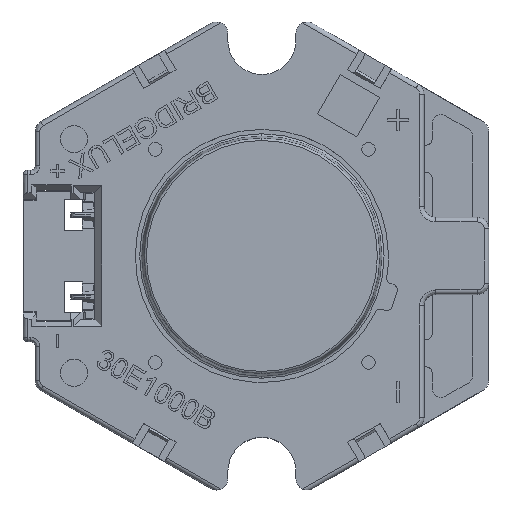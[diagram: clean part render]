
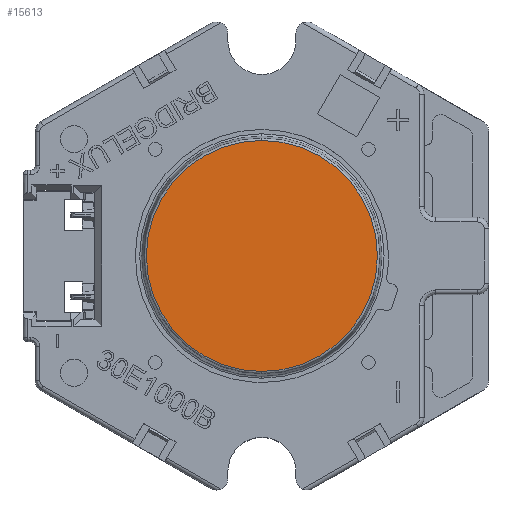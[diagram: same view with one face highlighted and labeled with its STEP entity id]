
A CAD part, top view. The second image highlights one B-rep face of the part: STEP entity #15613.
In plain terms, the highlighted planar face has unit normal (0, 0, 1) as drawn and (0, 1, 0) by its records, which use the part's own axes.
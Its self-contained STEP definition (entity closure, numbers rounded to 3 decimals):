
#625 = AXIS2_PLACEMENT_3D ( 'NONE', #8473, #871, #18686 ) ;
#871 = DIRECTION ( 'NONE',  ( 0., 1., 0. ) ) ;
#1490 = EDGE_CURVE ( 'NONE', #23086, #2231, #27918, .T. ) ;
#2231 = VERTEX_POINT ( 'NONE', #10621 ) ;
#3116 = DIRECTION ( 'NONE',  ( 0., -1., 0. ) ) ;
#8473 = CARTESIAN_POINT ( 'NONE',  ( 5.093, 0.55, 0. ) ) ;
#8914 = CARTESIAN_POINT ( 'NONE',  ( 0., 0.55, 5.093 ) ) ;
#10621 = CARTESIAN_POINT ( 'NONE',  ( 0., 0.55, -5.093 ) ) ;
#11097 = DIRECTION ( 'NONE',  ( 0., -1., 0. ) ) ;
#11558 = AXIS2_PLACEMENT_3D ( 'NONE', #18351, #3116, #20922 ) ;
#15613 = ADVANCED_FACE ( 'NONE', ( #18601 ), #28813, .T. ) ;
#16150 = ORIENTED_EDGE ( 'NONE', *, *, #1490, .F. ) ;
#18351 = CARTESIAN_POINT ( 'NONE',  ( 0., 0.55, 0. ) ) ;
#18472 = CIRCLE ( 'NONE', #11558, 5.093 ) ;
#18601 = FACE_OUTER_BOUND ( 'NONE', #26762, .T. ) ;
#18686 = DIRECTION ( 'NONE',  ( 0., 0., 1. ) ) ;
#18893 = ORIENTED_EDGE ( 'NONE', *, *, #32036, .F. ) ;
#20922 = DIRECTION ( 'NONE',  ( 0., 0., -1. ) ) ;
#23086 = VERTEX_POINT ( 'NONE', #8914 ) ;
#26335 = CARTESIAN_POINT ( 'NONE',  ( 0., 0.55, 0. ) ) ;
#26762 = EDGE_LOOP ( 'NONE', ( #18893, #16150 ) ) ;
#27918 = CIRCLE ( 'NONE', #30721, 5.093 ) ;
#28813 = PLANE ( 'NONE',  #625 ) ;
#28886 = DIRECTION ( 'NONE',  ( 0., 0., -1. ) ) ;
#30721 = AXIS2_PLACEMENT_3D ( 'NONE', #26335, #11097, #28886 ) ;
#32036 = EDGE_CURVE ( 'NONE', #2231, #23086, #18472, .T. ) ;
